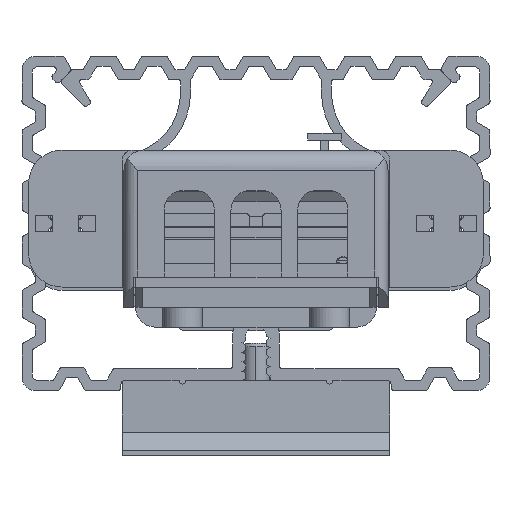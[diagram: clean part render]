
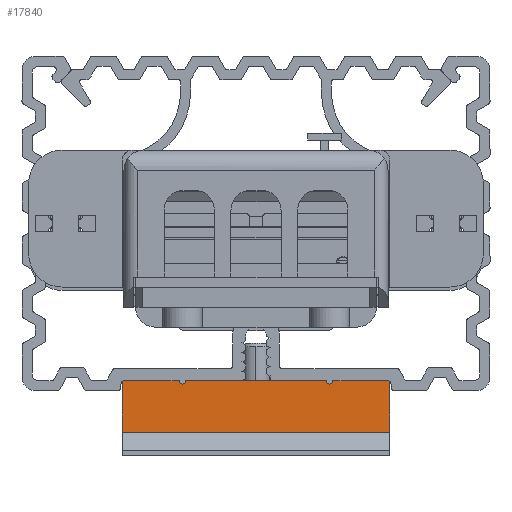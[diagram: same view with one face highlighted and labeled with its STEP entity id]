
A CAD part, front view. The second image highlights one B-rep face of the part: STEP entity #17840.
In plain terms, the highlighted planar face has unit normal (0, -1, 0).
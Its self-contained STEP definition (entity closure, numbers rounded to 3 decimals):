
#17707 = ORIENTED_EDGE ( 'NONE', *, *, #17845, .T. ) ;
#17830 = VERTEX_POINT ( 'NONE', #43846 ) ;
#17834 = EDGE_CURVE ( 'NONE', #17830, #17859, #43294, .T. ) ;
#17840 = ADVANCED_FACE ( 'NONE', ( #44539 ), #44456, .T. ) ;
#17841 = ORIENTED_EDGE ( 'NONE', *, *, #17834, .F. ) ;
#17843 = ORIENTED_EDGE ( 'NONE', *, *, #17844, .T. ) ;
#17844 = EDGE_CURVE ( 'NONE', #17830, #17928, #44538, .T. ) ;
#17845 = EDGE_CURVE ( 'NONE', #17928, #17918, #44507, .T. ) ;
#17848 = ORIENTED_EDGE ( 'NONE', *, *, #17917, .T. ) ;
#17859 = VERTEX_POINT ( 'NONE', #44498 ) ;
#17917 = EDGE_CURVE ( 'NONE', #17918, #17859, #44474, .T. ) ;
#17918 = VERTEX_POINT ( 'NONE', #44522 ) ;
#17928 = VERTEX_POINT ( 'NONE', #44572 ) ;
#17933 = EDGE_LOOP ( 'NONE', ( #17848, #17841, #17843, #17707 ) ) ;
#43291 = CARTESIAN_POINT ( 'NONE',  ( 20., -14.75, -6.7 ) ) ;
#43294 = LINE ( 'NONE', #43291, #43485 ) ;
#43485 = VECTOR ( 'NONE', #43487, 1000. ) ;
#43487 = DIRECTION ( 'NONE',  ( -1., 0., 0. ) ) ;
#43846 = CARTESIAN_POINT ( 'NONE',  ( 20., -14.75, -6.7 ) ) ;
#44436 = DIRECTION ( 'NONE',  ( -1., 0., 0. ) ) ;
#44437 = VECTOR ( 'NONE', #44436, 1000. ) ;
#44438 = CARTESIAN_POINT ( 'NONE',  ( 0., -14.75, 1. ) ) ;
#44454 = DIRECTION ( 'NONE',  ( 0., -1., 0. ) ) ;
#44455 = CARTESIAN_POINT ( 'NONE',  ( 20., -14.75, -1.4 ) ) ;
#44456 = PLANE ( 'NONE',  #44537 ) ;
#44473 = CARTESIAN_POINT ( 'NONE',  ( -20., -14.75, -6.7 ) ) ;
#44474 = LINE ( 'NONE', #44473, #44519 ) ;
#44498 = CARTESIAN_POINT ( 'NONE',  ( -20., -14.75, -6.7 ) ) ;
#44507 = LINE ( 'NONE', #44438, #44437 ) ;
#44509 = DIRECTION ( 'NONE',  ( 0., 0., 1. ) ) ;
#44510 = VECTOR ( 'NONE', #44509, 1000. ) ;
#44512 = DIRECTION ( 'NONE',  ( 1., 0., 0. ) ) ;
#44518 = DIRECTION ( 'NONE',  ( 0., 0., -1. ) ) ;
#44519 = VECTOR ( 'NONE', #44518, 1000. ) ;
#44522 = CARTESIAN_POINT ( 'NONE',  ( -20., -14.75, 1. ) ) ;
#44537 = AXIS2_PLACEMENT_3D ( 'NONE', #44455, #44454, #44512 ) ;
#44538 = LINE ( 'NONE', #44540, #44510 ) ;
#44539 = FACE_OUTER_BOUND ( 'NONE', #17933, .T. ) ;
#44540 = CARTESIAN_POINT ( 'NONE',  ( 20., -14.75, -6.7 ) ) ;
#44572 = CARTESIAN_POINT ( 'NONE',  ( 20., -14.75, 1. ) ) ;
